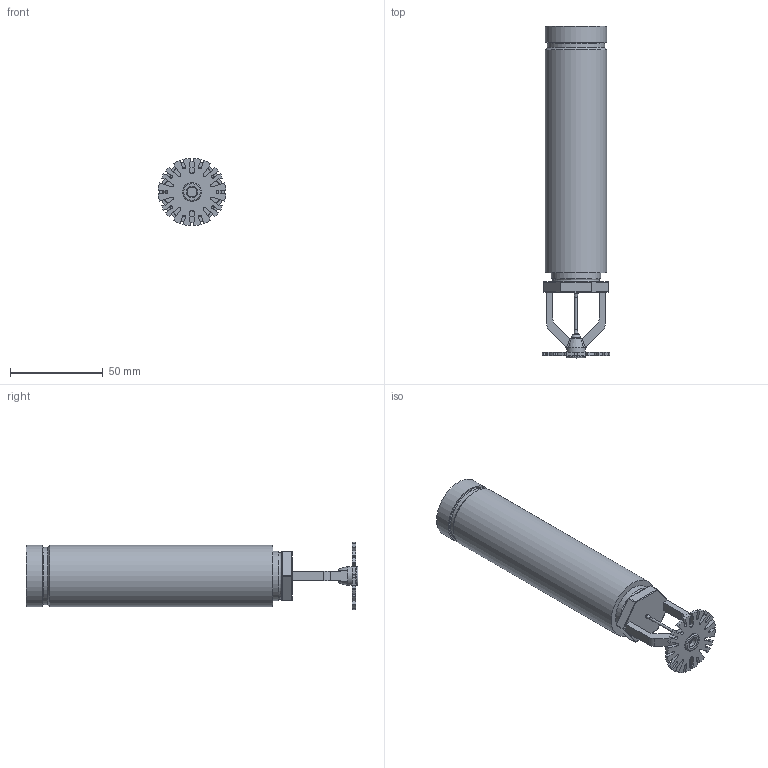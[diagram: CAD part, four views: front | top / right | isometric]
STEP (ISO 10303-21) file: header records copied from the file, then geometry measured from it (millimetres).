
FILE_DESCRIPTION(/* description */ (''),/* implementation_level */ '2;1');
FILE_NAME(/* name */ 'C:\Files for Export\V3605-V3615\STEP\Victaulic_FP-Sprinkler_V3615_DRY_SR_Pendent\Victaulic_FP-Sprinkler_V3615_DRY_SR_Pendent (IGS)_PLAIN_1 (25).stp',/* time_stamp */ '2024-05-22T08:16:11+02:00',/* author */ ('vjadhav'),/* organization */ (''),/* preprocessor_version */ 'ST-DEVELOPER v18.1',/* originating_system */ 'Autodesk Inventor 2020',/* authorisation */ '');
FILE_SCHEMA (('AUTOMOTIVE_DESIGN { 1 0 10303 214 3 1 1 }'));
Length unit declared in the file: inch
Products named in the file (2): V3615_plain-01.0; V3615_Plain Barrel
Assembly tree (1 placements, depth 2):
  V3615_plain-01.0
    V3615_Plain Barrel
Bounding box: 36.48 x 179.39 x 36.48 mm (x, y, z)
Volume: 51926.3 mm3; surface area: 32349.5 mm2
Topology: 1 solids, 1 shells, 226 faces, 617 edges, 394 vertices
Faces by surface type: plane 105, cylinder 87, sphere 12, bspline 10, cone 7, torus 5
Full cylindrical faces by diameter (mm): 1.27 x1, 5.08 x2, 10.16 x2, 20.93 x1, 26.645 x1, 26.67 x1, 30.861 x1, 33.401 x2
Entity records: 7771 total; most frequent: CARTESIAN_POINT 1642, DIRECTION 1256, ORIENTED_EDGE 1224, EDGE_CURVE 612, AXIS2_PLACEMENT_3D 456, VERTEX_POINT 394, LINE 344, VECTOR 344
